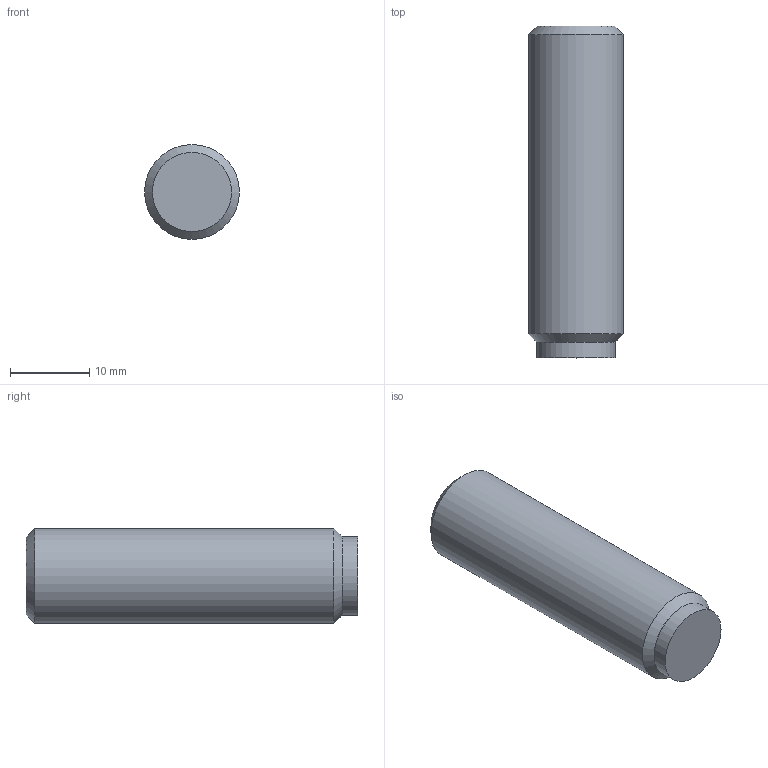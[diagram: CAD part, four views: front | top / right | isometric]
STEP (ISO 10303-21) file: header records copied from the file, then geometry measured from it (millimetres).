
FILE_DESCRIPTION( ( 'STEP AP203' ), '1' );
FILE_NAME( 'C:/Temp/Ganter_Step_05_03_2020/data/3_2/gn913_3/Grub screw GN 913.3-M12-40-MS.stp', '2020-03-13T05:35:54', ( 'License CC BY-ND 4.0' ), ( 'CADENAS' ), ' ', 'PARTsolutions', ' ' );
FILE_SCHEMA( ( 'CONFIG_CONTROL_DESIGN' ) );
Length unit declared in the file: millimetre
Products named in the file (1): _Grub screw GN 913.3-M12-40-MS
Bounding box: 12 x 42 x 12 mm (x, y, z)
Volume: 4390.7 mm3; surface area: 1917.4 mm2
Topology: 1 solids, 1 shells, 14 faces, 28 edges, 18 vertices
Faces by surface type: plane 10, cylinder 2, cone 2
Full cylindrical faces by diameter (mm): 10 x1, 12 x1
Entity records: 386 total; most frequent: DIRECTION 60, CARTESIAN_POINT 57, ORIENTED_EDGE 48, EDGE_CURVE 24, AXIS2_PLACEMENT_3D 21, EDGE_LOOP 20, VERTEX_POINT 18, LINE 18
